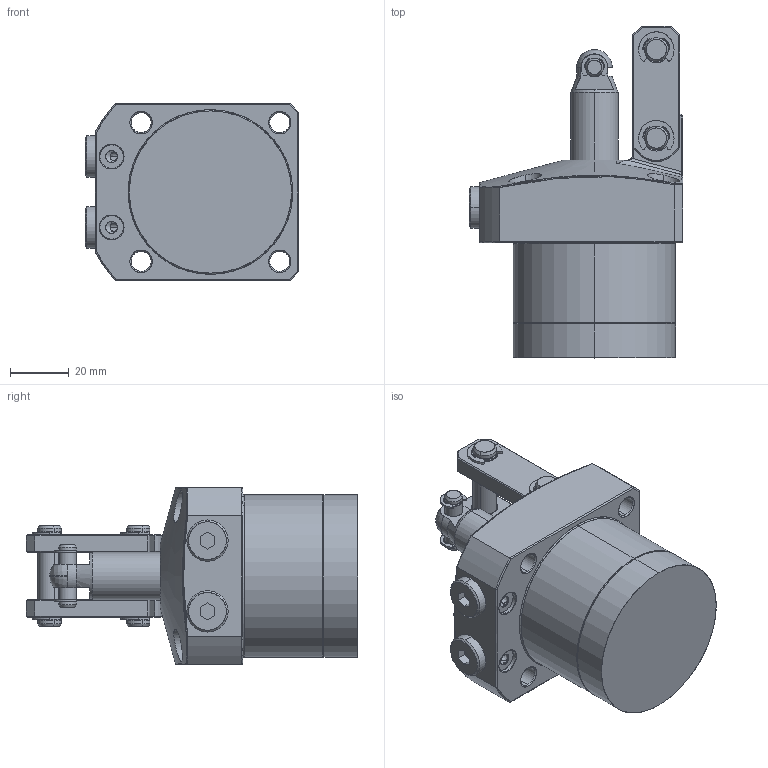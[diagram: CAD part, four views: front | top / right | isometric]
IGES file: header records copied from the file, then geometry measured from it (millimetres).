
Start section: SolidWorks IGES file using analytic representation for surfaces
Global section: file name: D:\abhilash\nijil\cylinder\LKA Series\con v lka\lka550\lk55cc\55CCPT\0402-04551.IGS; native system: SolidWorks 2010; preprocessor: SolidWorks 2010; author: nidheesh; date: 130730.102759; units: millimetre
Bounding box: 72.5 x 112.5 x 60 mm (x, y, z)
Surface area: 34467.7 mm2 (no closed solid volume)
Topology: 0 solids, 0 shells, 404 faces, 5155 edges, 5154 vertices
Faces by surface type: bspline 215, revolution 189
